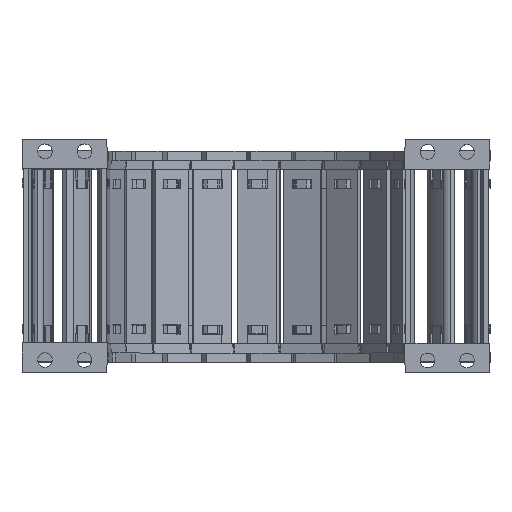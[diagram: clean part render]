
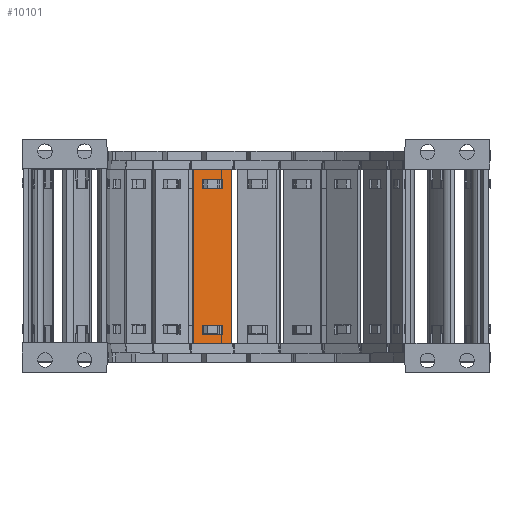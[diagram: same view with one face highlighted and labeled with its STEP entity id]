
A CAD part, top view. The second image highlights one B-rep face of the part: STEP entity #10101.
In plain terms, the highlighted planar face has unit normal (0.259, 0, 0.966).
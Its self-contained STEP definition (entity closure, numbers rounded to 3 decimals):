
#4663=FACE_BOUND('',#23383,.T.);
#4664=FACE_BOUND('',#23384,.T.);
#4665=FACE_BOUND('',#23385,.T.);
#5651=PLANE('',#121248);
#10101=ADVANCED_FACE('',(#4663,#4664,#4665),#5651,.F.);
#23383=EDGE_LOOP('',(#38223,#38224,#38225,#38226));
#23384=EDGE_LOOP('',(#38227,#38228,#38229,#38230));
#23385=EDGE_LOOP('',(#38231,#38232,#38233,#38234));
#38223=ORIENTED_EDGE('',*,*,#81626,.F.);
#38224=ORIENTED_EDGE('',*,*,#81597,.F.);
#38225=ORIENTED_EDGE('',*,*,#81631,.F.);
#38226=ORIENTED_EDGE('',*,*,#81608,.F.);
#38227=ORIENTED_EDGE('',*,*,#81643,.F.);
#38228=ORIENTED_EDGE('',*,*,#81636,.F.);
#38229=ORIENTED_EDGE('',*,*,#81675,.F.);
#38230=ORIENTED_EDGE('',*,*,#81650,.T.);
#38231=ORIENTED_EDGE('',*,*,#81673,.T.);
#38232=ORIENTED_EDGE('',*,*,#81676,.F.);
#38233=ORIENTED_EDGE('',*,*,#81677,.F.);
#38234=ORIENTED_EDGE('',*,*,#81678,.F.);
#69013=VERTEX_POINT('',#171403);
#69014=VERTEX_POINT('',#171405);
#69020=VERTEX_POINT('',#171420);
#69023=VERTEX_POINT('',#171426);
#69040=VERTEX_POINT('',#171483);
#69041=VERTEX_POINT('',#171484);
#69047=VERTEX_POINT('',#171498);
#69050=VERTEX_POINT('',#171506);
#69063=VERTEX_POINT('',#171553);
#69064=VERTEX_POINT('',#171555);
#69065=VERTEX_POINT('',#171560);
#69066=VERTEX_POINT('',#171562);
#81597=EDGE_CURVE('',#69013,#69014,#98089,.T.);
#81608=EDGE_CURVE('',#69023,#69020,#98100,.T.);
#81626=EDGE_CURVE('',#69014,#69023,#98115,.T.);
#81631=EDGE_CURVE('',#69020,#69013,#98120,.T.);
#81636=EDGE_CURVE('',#69040,#69041,#98125,.T.);
#81643=EDGE_CURVE('',#69041,#69047,#98132,.T.);
#81650=EDGE_CURVE('',#69050,#69047,#98139,.T.);
#81673=EDGE_CURVE('',#69064,#69063,#98153,.T.);
#81675=EDGE_CURVE('',#69050,#69040,#98155,.T.);
#81676=EDGE_CURVE('',#69065,#69063,#98156,.T.);
#81677=EDGE_CURVE('',#69066,#69065,#98157,.T.);
#81678=EDGE_CURVE('',#69064,#69066,#98158,.T.);
#98089=LINE('',#171404,#109721);
#98100=LINE('',#171427,#109732);
#98115=LINE('',#171462,#109747);
#98120=LINE('',#171471,#109752);
#98125=LINE('',#171482,#109757);
#98132=LINE('',#171497,#109764);
#98139=LINE('',#171510,#109771);
#98153=LINE('',#171554,#109785);
#98155=LINE('',#171558,#109787);
#98156=LINE('',#171559,#109788);
#98157=LINE('',#171561,#109789);
#98158=LINE('',#171563,#109790);
#109721=VECTOR('',#135874,1.);
#109732=VECTOR('',#135889,1.);
#109747=VECTOR('',#135924,1.);
#109752=VECTOR('',#135933,1.);
#109757=VECTOR('',#135942,1.);
#109764=VECTOR('',#135951,1.);
#109771=VECTOR('',#135960,1.);
#109785=VECTOR('',#136010,1.);
#109787=VECTOR('',#136014,1.);
#109788=VECTOR('',#136015,1.);
#109789=VECTOR('',#136016,1.);
#109790=VECTOR('',#136017,1.);
#121248=AXIS2_PLACEMENT_3D('',#171564,#136018,#136019);
#135874=DIRECTION('',(0.966,0.,-0.259));
#135889=DIRECTION('',(-0.966,0.,0.259));
#135924=DIRECTION('',(0.,1.,0.));
#135933=DIRECTION('',(0.,-1.,0.));
#135942=DIRECTION('',(-0.966,0.,0.259));
#135951=DIRECTION('',(0.,-1.,0.));
#135960=DIRECTION('',(-0.966,0.,0.259));
#136010=DIRECTION('',(0.,-1.,0.));
#136014=DIRECTION('',(0.,1.,0.));
#136015=DIRECTION('',(-0.966,0.,0.259));
#136016=DIRECTION('',(0.,-1.,0.));
#136017=DIRECTION('',(0.966,0.,-0.259));
#136018=DIRECTION('',(-0.259,0.,-0.966));
#136019=DIRECTION('',(-0.966,0.,0.259));
#171403=CARTESIAN_POINT('',(-99.114,-66.53,-76.948));
#171404=CARTESIAN_POINT('',(-99.114,-66.53,-76.948));
#171405=CARTESIAN_POINT('',(-91.242,-66.53,-79.058));
#171420=CARTESIAN_POINT('',(-99.114,-62.882,-76.948));
#171426=CARTESIAN_POINT('',(-91.242,-62.882,-79.058));
#171427=CARTESIAN_POINT('',(-91.242,-62.882,-79.058));
#171462=CARTESIAN_POINT('',(-91.242,-97.96,-79.058));
#171471=CARTESIAN_POINT('',(-99.114,-94.36,-76.948));
#171482=CARTESIAN_POINT('',(-91.242,-3.97,-79.058));
#171483=CARTESIAN_POINT('',(-91.242,-3.97,-79.058));
#171484=CARTESIAN_POINT('',(-99.114,-3.97,-76.948));
#171497=CARTESIAN_POINT('',(-99.114,-3.97,-76.948));
#171498=CARTESIAN_POINT('',(-99.114,-7.618,-76.948));
#171506=CARTESIAN_POINT('',(-91.242,-7.618,-79.058));
#171510=CARTESIAN_POINT('',(-91.242,-7.618,-79.058));
#171553=CARTESIAN_POINT('',(-102.809,-70.5,-75.959));
#171554=CARTESIAN_POINT('',(-102.809,0.,-75.959));
#171555=CARTESIAN_POINT('',(-102.809,0.,-75.959));
#171558=CARTESIAN_POINT('',(-91.242,-7.618,-79.058));
#171559=CARTESIAN_POINT('',(-87.547,-70.5,-80.048));
#171560=CARTESIAN_POINT('',(-87.547,-70.5,-80.048));
#171561=CARTESIAN_POINT('',(-87.547,0.,-80.048));
#171562=CARTESIAN_POINT('',(-87.547,0.,-80.048));
#171563=CARTESIAN_POINT('',(-102.809,0.,-75.959));
#171564=CARTESIAN_POINT('',(-85.46,31.74,-80.607));
